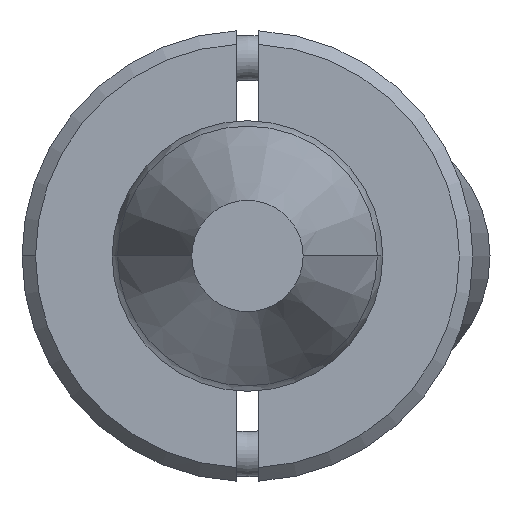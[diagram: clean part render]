
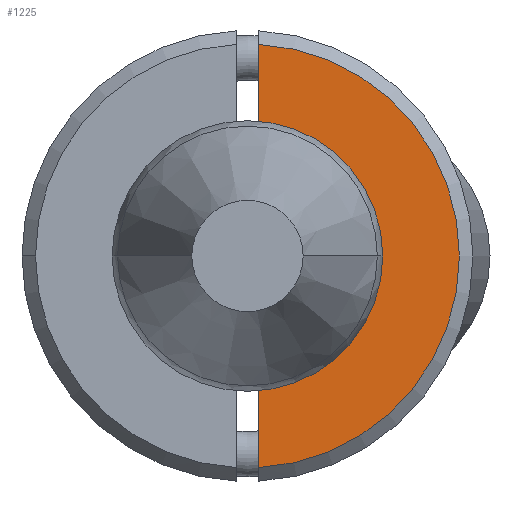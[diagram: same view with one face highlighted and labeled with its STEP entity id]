
A CAD part, front view. The second image highlights one B-rep face of the part: STEP entity #1225.
In plain terms, the highlighted planar face has unit normal (0, -1, 0).
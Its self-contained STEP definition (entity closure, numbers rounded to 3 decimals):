
#130 = CARTESIAN_POINT ( 'NONE',  ( 0., -6., 0. ) ) ;
#330 = VERTEX_POINT ( 'NONE', #2104 ) ;
#358 = CARTESIAN_POINT ( 'NONE',  ( -5., -6., -0.25 ) ) ;
#442 = ORIENTED_EDGE ( 'NONE', *, *, #1364, .T. ) ;
#528 = EDGE_LOOP ( 'NONE', ( #1831, #442, #2770, #1857, #1849 ) ) ;
#617 = CARTESIAN_POINT ( 'NONE',  ( -5., -6., -0.25 ) ) ;
#625 = VERTEX_POINT ( 'NONE', #1103 ) ;
#880 = DIRECTION ( 'NONE',  ( 0., 0., -1. ) ) ;
#928 = DIRECTION ( 'NONE',  ( 0., -1., 0. ) ) ;
#1028 = LINE ( 'NONE', #358, #1445 ) ;
#1044 = AXIS2_PLACEMENT_3D ( 'NONE', #3597, #928, #2110 ) ;
#1099 = VECTOR ( 'NONE', #3000, 1000. ) ;
#1103 = CARTESIAN_POINT ( 'NONE',  ( -2.437, -6., -0.25 ) ) ;
#1106 = AXIS2_PLACEMENT_3D ( 'NONE', #130, #3070, #2530 ) ;
#1173 = DIRECTION ( 'NONE',  ( 0., 0., -1. ) ) ;
#1218 = PLANE ( 'NONE',  #1044 ) ;
#1225 = ADVANCED_FACE ( 'NONE', ( #2990 ), #1218, .T. ) ;
#1228 = CARTESIAN_POINT ( 'NONE',  ( 0., -6., 0. ) ) ;
#1279 = AXIS2_PLACEMENT_3D ( 'NONE', #1228, #3812, #1173 ) ;
#1364 = EDGE_CURVE ( 'NONE', #3052, #330, #2789, .T. ) ;
#1443 = DIRECTION ( 'NONE',  ( 0., 1., 0. ) ) ;
#1445 = VECTOR ( 'NONE', #2193, 1000. ) ;
#1624 = EDGE_CURVE ( 'NONE', #3351, #2463, #2782, .T. ) ;
#1643 = EDGE_CURVE ( 'NONE', #3351, #330, #2636, .T. ) ;
#1763 = CIRCLE ( 'NONE', #1279, 2.45 ) ;
#1831 = ORIENTED_EDGE ( 'NONE', *, *, #3288, .F. ) ;
#1849 = ORIENTED_EDGE ( 'NONE', *, *, #2747, .T. ) ;
#1857 = ORIENTED_EDGE ( 'NONE', *, *, #1624, .T. ) ;
#2104 = CARTESIAN_POINT ( 'NONE',  ( 4.693, -6., -0.25 ) ) ;
#2110 = DIRECTION ( 'NONE',  ( 0., 0., -1. ) ) ;
#2193 = DIRECTION ( 'NONE',  ( 1., 0., 0. ) ) ;
#2339 = CARTESIAN_POINT ( 'NONE',  ( 0., -6., 0. ) ) ;
#2463 = VERTEX_POINT ( 'NONE', #2912 ) ;
#2530 = DIRECTION ( 'NONE',  ( 0., 0., -1. ) ) ;
#2636 = LINE ( 'NONE', #617, #1099 ) ;
#2747 = EDGE_CURVE ( 'NONE', #2463, #625, #1763, .T. ) ;
#2770 = ORIENTED_EDGE ( 'NONE', *, *, #1643, .F. ) ;
#2782 = CIRCLE ( 'NONE', #2959, 2.45 ) ;
#2789 = CIRCLE ( 'NONE', #1106, 4.7 ) ;
#2790 = CARTESIAN_POINT ( 'NONE',  ( 2.437, -6., -0.25 ) ) ;
#2912 = CARTESIAN_POINT ( 'NONE',  ( 0., -6., -2.45 ) ) ;
#2959 = AXIS2_PLACEMENT_3D ( 'NONE', #2339, #1443, #880 ) ;
#2990 = FACE_OUTER_BOUND ( 'NONE', #528, .T. ) ;
#3000 = DIRECTION ( 'NONE',  ( 1., 0., 0. ) ) ;
#3052 = VERTEX_POINT ( 'NONE', #3096 ) ;
#3070 = DIRECTION ( 'NONE',  ( 0., -1., 0. ) ) ;
#3096 = CARTESIAN_POINT ( 'NONE',  ( -4.693, -6., -0.25 ) ) ;
#3288 = EDGE_CURVE ( 'NONE', #3052, #625, #1028, .T. ) ;
#3351 = VERTEX_POINT ( 'NONE', #2790 ) ;
#3597 = CARTESIAN_POINT ( 'NONE',  ( -5., -6., 0. ) ) ;
#3812 = DIRECTION ( 'NONE',  ( 0., 1., 0. ) ) ;
